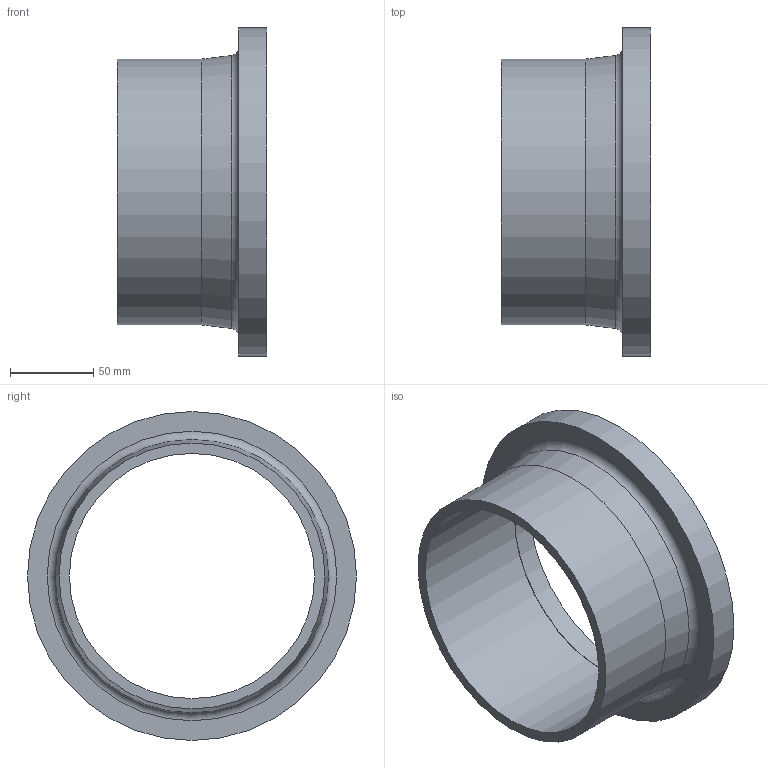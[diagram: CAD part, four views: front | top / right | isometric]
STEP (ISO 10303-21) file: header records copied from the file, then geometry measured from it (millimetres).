
FILE_DESCRIPTION(/* description */ (''),/* implementation_level */ '2;1');
FILE_NAME(/* name */ 'Z:\Geberit\Export\NewStep\369744.stp',/* time_stamp */ '2014-04-02T08:03:14+02:00',/* author */ ('nelson'),/* organization */ (''),/* preprocessor_version */ 'ST-DEVELOPER v15.2',/* originating_system */ 'Autodesk Inventor 2014',/* authorisation */ '');
FILE_SCHEMA (('AUTOMOTIVE_DESIGN { 1 0 10303 214 3 1 1 }'));
Length unit declared in the file: millimetre
Products named in the file (1): 369744
Bounding box: 90 x 198 x 198 mm (x, y, z)
Volume: 460529.1 mm3; surface area: 115588.6 mm2
Topology: 1 solids, 1 shells, 19 faces, 32 edges, 19 vertices
Faces by surface type: cone 8, plane 6, cylinder 4, torus 1
Full cylindrical faces by diameter (mm): 147.6 x1, 149.6 x1, 160 x1, 198 x1
Entity records: 428 total; most frequent: DIRECTION 78, CARTESIAN_POINT 58, AXIS2_PLACEMENT_3D 39, EDGE_LOOP 38, ORIENTED_EDGE 38, FACE_BOUND 23, STYLED_ITEM 20, CIRCLE 19
